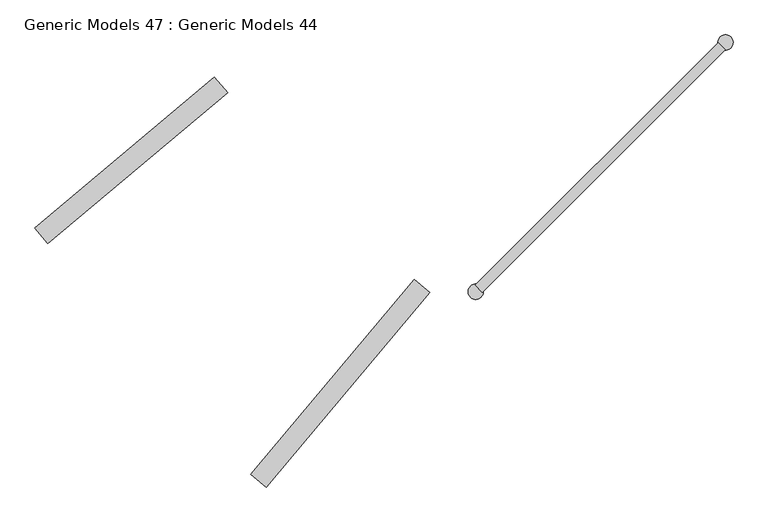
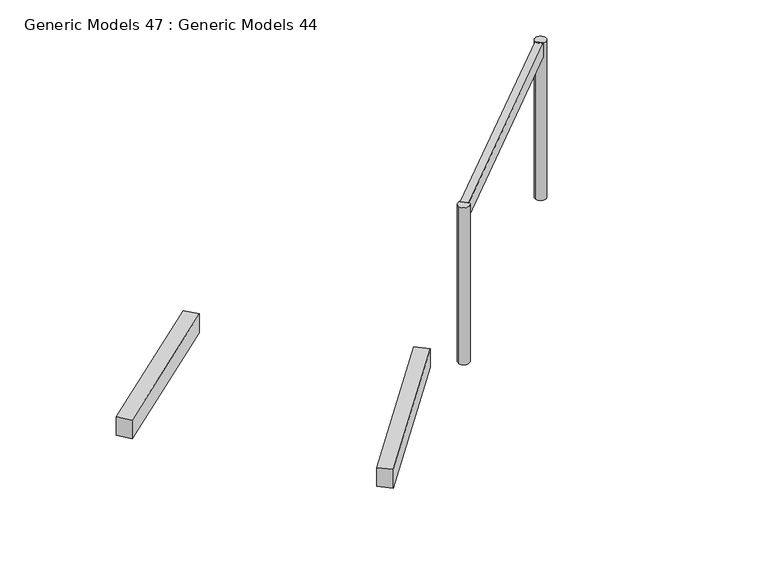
"""IFC4 building model written with IfcOpenShell, lengths in millimetres: proxy geometry, Generic Models 47 : Generic Models 44."""

from ifc_helpers import new_model, si_unit, point, frame, frame_2d, origin, place, context, project, spatial, polyline, circle_curve, trimmed, segment, composite_curve, outline, extrude, source, transform, mapped, element, save


def generic_models_47_generic_models_44_49a0970a(model_context):
    return source(origin(), model_context, "Body", "SweptSolid", [
        extrude(outline(polyline([(-121966.1168471, -35737.0994253), (-122119.3257357, -35608.5419033), (-120508.2983831, -33688.5942681), (-120355.0894945, -33817.1517901), (-121966.1168471, -35737.0994253)])), frame((0.0, 0.0, 42770.0), z_axis=(0.0, 0.0, 1.0), x_axis=(1.0, 0.0, 0.0)), (0.0, 0.0, 1.0), 268.5053554),
        extrude(outline(polyline([(-124115.1436886, -33333.9533005), (-124243.7012106, -33180.7444118), (-122475.3335361, -31696.9077484), (-122346.7760142, -31850.116637), (-124115.1436886, -33333.9533005)])), frame((0.0, 0.0, 42770.0), z_axis=(0.0, 0.0, 1.0), x_axis=(1.0, 0.0, 0.0)), (0.0, 0.0, 1.0), 268.5053554),
        extrude(outline(polyline([(-119837.3071693, -33817.7796088), (-119908.0178474, -33747.0689307), (-117515.3028099, -31354.3538932), (-117444.5921318, -31425.0645713), (-119837.3071693, -33817.7796088)])), frame((0.0, 0.0, 44746.1646464), z_axis=(0.0, 0.0, 1.0), x_axis=(1.0, 0.0, 0.0)), (0.0, 0.0, 1.0), 195.4634247),
        extrude(outline(composite_curve([segment(trimmed(circle_curve(frame_2d((-119902.3743707, -33810.9678051)), 75.0), [point((-119977.3743707, -33810.9678051))], [point((-119827.3743707, -33810.9678051))], False, "CARTESIAN"), True, "CONTINUOUS"), segment(trimmed(circle_curve(frame_2d((-119902.3743707, -33810.9678051)), 75.0), [point((-119827.3743707, -33810.9678051))], [point((-119977.3743707, -33810.9678051))], False, "CARTESIAN"), True, "CONTINUOUS")], self_intersect=False)), frame((0.0, 0.0, 42695.9057084), z_axis=(0.0, 0.0, 1.0), x_axis=(1.0, 0.0, 0.0)), (0.0, 0.0, 1.0), 2245.7223627),
        extrude(outline(composite_curve([segment(trimmed(circle_curve(frame_2d((-117442.1856415, -31353.5552475)), 75.0), [point((-117517.1856415, -31353.5552475))], [point((-117367.1856415, -31353.5552475))], False, "CARTESIAN"), True, "CONTINUOUS"), segment(trimmed(circle_curve(frame_2d((-117442.1856415, -31353.5552475)), 75.0), [point((-117367.1856415, -31353.5552475))], [point((-117517.1856415, -31353.5552475))], False, "CARTESIAN"), True, "CONTINUOUS")], self_intersect=False)), frame((0.0, 0.0, 42695.9057084), z_axis=(0.0, 0.0, 1.0), x_axis=(1.0, 0.0, 0.0)), (0.0, 0.0, 1.0), 2245.7223627),
    ])


if __name__ == "__main__":
    model = new_model("IFC4")
    model_context = context("Model", 3, world=origin())
    ifc_project = project(units=[si_unit("LENGTHUNIT", "METRE", prefix="MILLI")], contexts=[model_context])
    site = spatial("IfcSite", under=ifc_project)
    building = spatial("IfcBuilding", under=site)
    placement = place(None, origin())
    generic_models_47_generic_models_44_shape = generic_models_47_generic_models_44_49a0970a(model_context)
    element("IfcBuildingElementProxy", 1, Name="Generic Models 47 : Generic Models 44", ObjectType="Generic Models 47 : Generic Models 44", at=placement, inside=building, context=model_context, shape_type="MappedRepresentation", body=[
        mapped(generic_models_47_generic_models_44_shape, transform((0.0, 0.0, 0.0), x_axis=(1.0, 0.0, 0.0), y_axis=(0.0, 1.0, 0.0), z_axis=(0.0, 0.0, 1.0))),
    ])
    save(model, "model.ifc")
